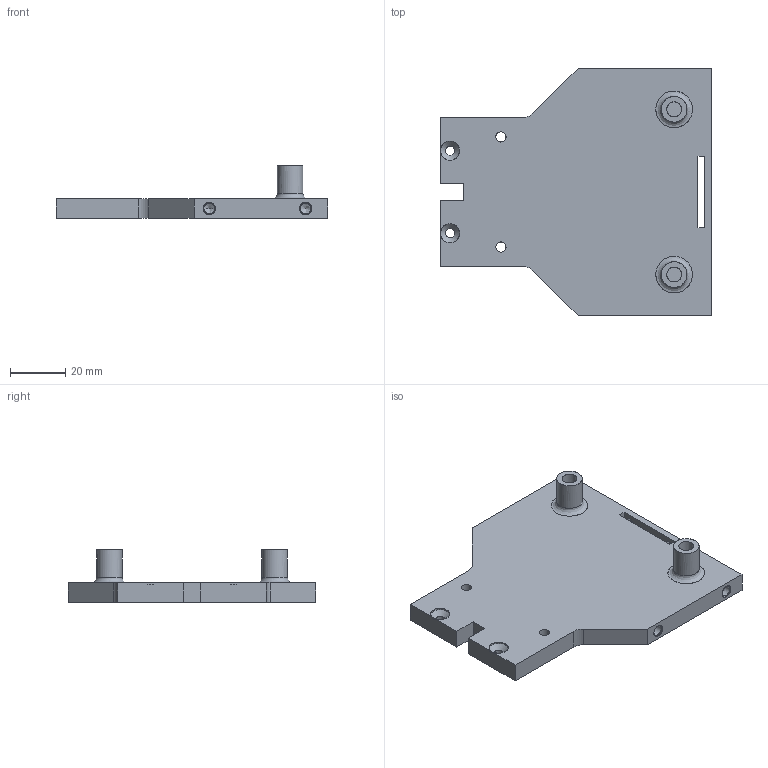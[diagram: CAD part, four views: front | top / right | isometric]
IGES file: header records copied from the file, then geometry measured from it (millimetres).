
Global section: file name: C:\Users\gehrichcr\Documents\1 Drive Backup\Practice\Inspire\V1.5\IGES\Frame Receiver Shelf 90mm V1.5.igs; native system: NX V8.5; preprocessor: SIEMENS PLM Software NX 8.5; date: 20150608.123311; units: millimetre
Bounding box: 98.5 x 90 x 19 mm (x, y, z)
Surface area: 19722.2 mm2 (no closed solid volume)
Topology: 0 solids, 0 shells, 64 faces, 538 edges, 504 vertices
Faces by surface type: bspline 64
